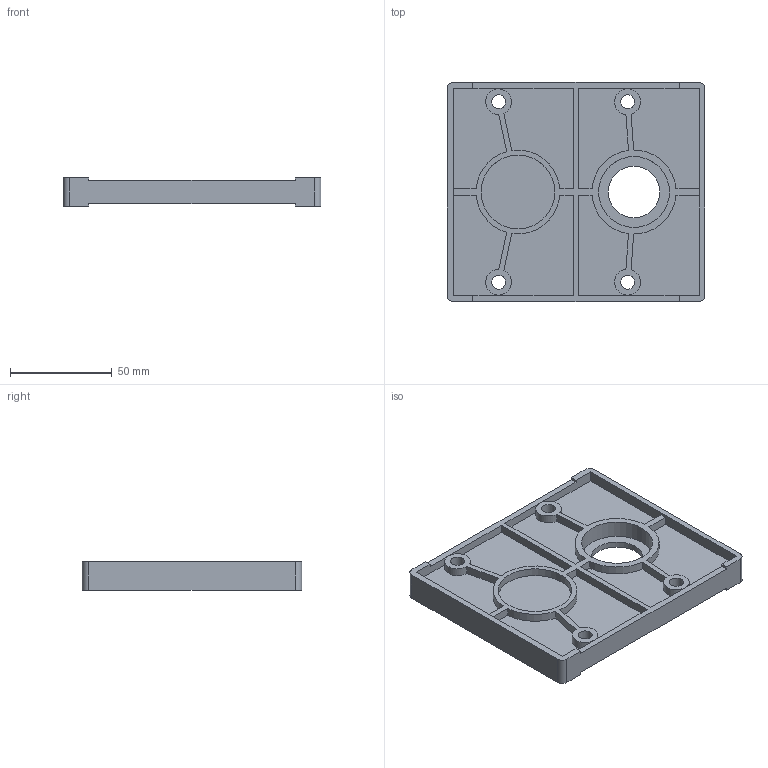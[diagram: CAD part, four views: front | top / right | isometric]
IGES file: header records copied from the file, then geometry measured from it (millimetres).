
Global section: file name: No Iges File Name specified; native system: AutoDesk Inventor R5.0; preprocessor: AutoDesk Inventor Iges Exporter R5.0; author: No Author specified; organization: No Organization specified; date: 20040116.182639; units: inch
Bounding box: 127 x 107.95 x 14.1 mm (x, y, z)
Surface area: 46158.6 mm2 (no closed solid volume)
Topology: 0 solids, 0 shells, 141 faces, 761 edges, 745 vertices
Faces by surface type: bspline 60, plane 59, revolution 22
